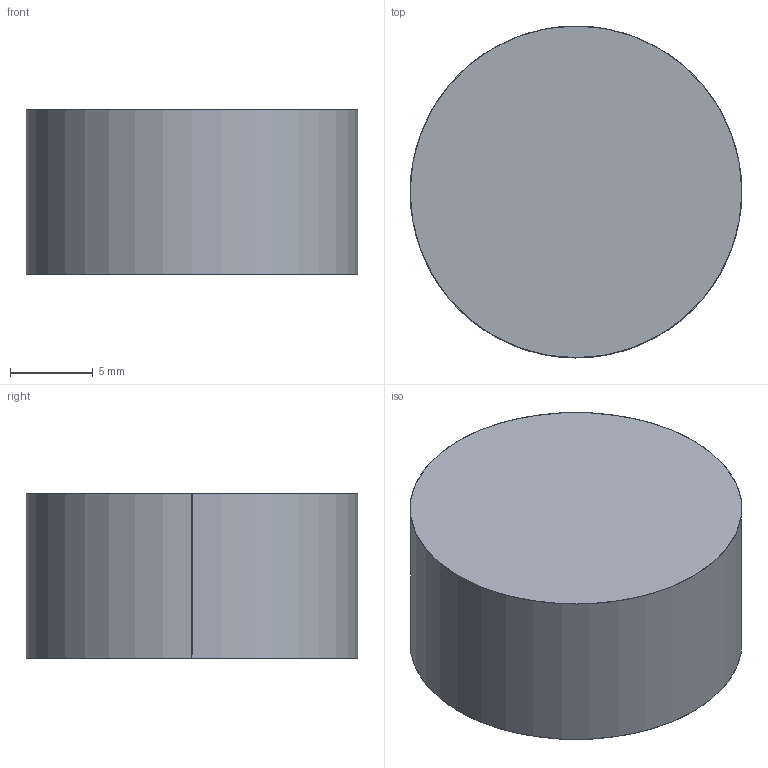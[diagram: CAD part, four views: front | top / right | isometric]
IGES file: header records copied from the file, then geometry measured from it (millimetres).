
Start section: SolidWorks IGES file using analytic representation for surfaces
Global section: file name: X:\11_SW2020-Inv2020\00_全2021-11新製品まで\d\DRP-200\drp-200.IGS; native system: SolidWorks 2020; preprocessor: SolidWorks 2020; author: ImaoCorp; date: 211021.165254; units: millimetre
Bounding box: 20 x 20 x 10 mm (x, y, z)
Surface area: 1350.9 mm2 (no closed solid volume)
Topology: 0 solids, 0 shells, 7 faces, 144 edges, 144 vertices
Faces by surface type: revolution 4, bspline 3
